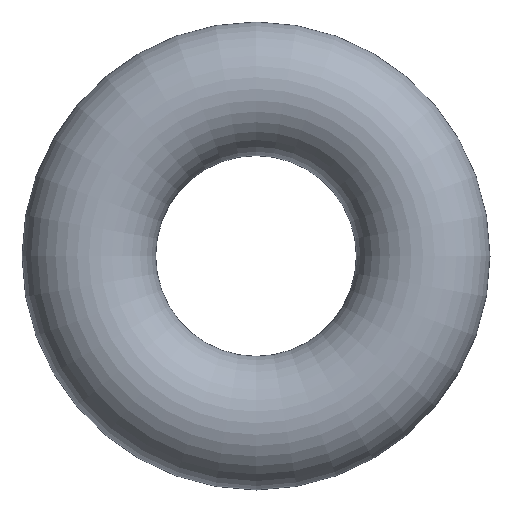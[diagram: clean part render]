
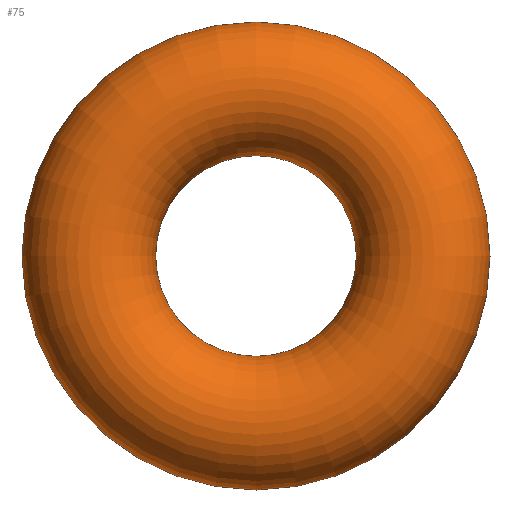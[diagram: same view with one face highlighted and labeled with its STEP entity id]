
A CAD part, front view. The second image highlights one B-rep face of the part: STEP entity #75.
In plain terms, the highlighted toroidal (fillet/blend) face has major radius 2.5 mm and minor radius 1 mm.
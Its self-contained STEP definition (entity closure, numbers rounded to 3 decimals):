
#75 = ADVANCED_FACE( '', ( #77 ), #78, .T. );
#77 = FACE_BOUND( '', #79, .T. );
#78 = TOROIDAL_SURFACE( '', #80, 2.5, 1. );
#79 = VERTEX_LOOP( '', #81 );
#80 = AXIS2_PLACEMENT_3D( '', #82, #83, #84 );
#81 = VERTEX_POINT( '', #85 );
#82 = CARTESIAN_POINT( '', ( 0., 0., 0. ) );
#83 = DIRECTION( '', ( 0., -1., 0. ) );
#84 = DIRECTION( '', ( 0., 0., -1. ) );
#85 = CARTESIAN_POINT( '', ( 0., 0., -3.5 ) );
